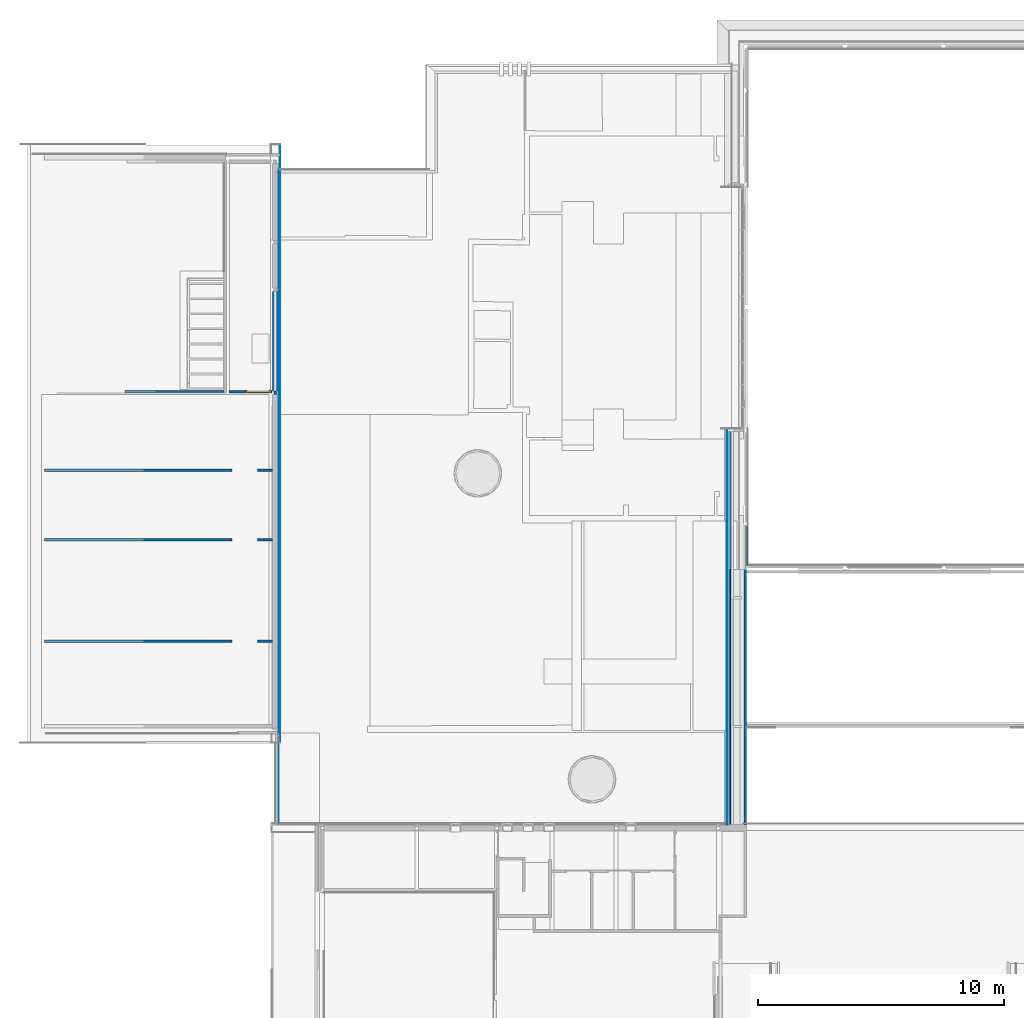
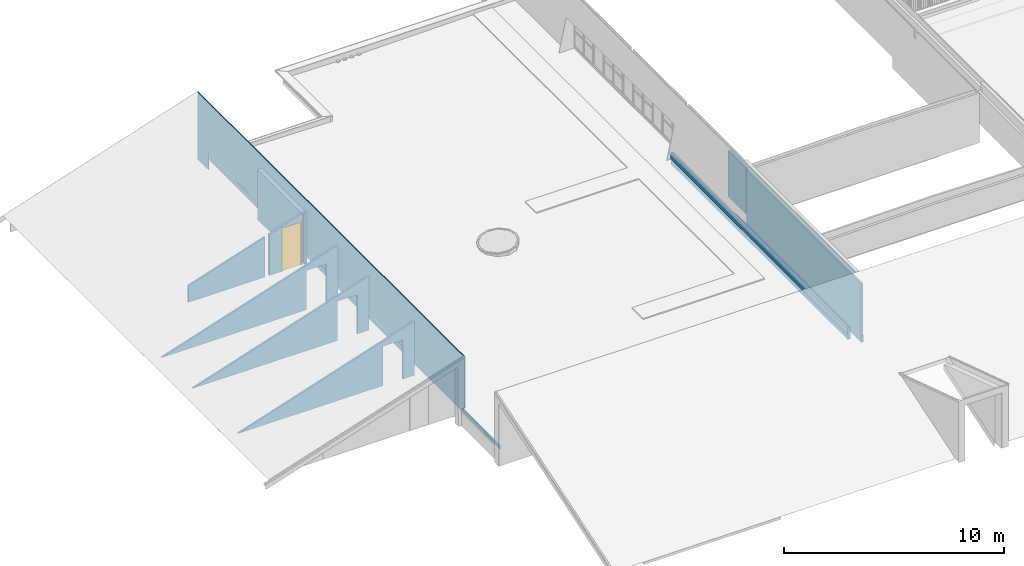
# One storey, part 23 of 66: 13 walls, 1 door, 11 openings.
"""IFC2X3 building model written with IfcOpenShell, lengths in millimetres."""

from ifc_helpers import new_model, entity, si_unit, converted_unit, derived_unit, direction, frame, frame_2d, origin, place, context, subcontext, project, spatial, polyline, rectangle, outline, extrude, clip, halfspace, bounded_halfspace, faceted_brep, source, transform, mapped, material, material_list, layer, layer_set, layer_usage, type_object, type_shapes, element, fill, save


model = new_model("IFC2X3")

# Units and contexts
model_context = context("Model", 3, precision=0.01, world=origin(), true_north=direction((6.12303176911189e-17, 1.0)))
body_context = subcontext(model_context, "Body", "Model", "MODEL_VIEW")
ifc_project = project(units=[si_unit("LENGTHUNIT", "METRE", prefix="MILLI"), si_unit("AREAUNIT", "SQUARE_METRE"), si_unit("VOLUMEUNIT", "CUBIC_METRE"), converted_unit("PLANEANGLEUNIT", "DEGREE", entity("IfcRatioMeasure", 0.0174532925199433), si_unit("PLANEANGLEUNIT", "RADIAN"), dimensions=[0, 0, 0, 0, 0, 0, 0]), si_unit("MASSUNIT", "GRAM", prefix="KILO"), derived_unit("MASSDENSITYUNIT", [(si_unit("MASSUNIT", "GRAM", prefix="KILO"), 1), (si_unit("LENGTHUNIT", "METRE"), -3)]), derived_unit("MOMENTOFINERTIAUNIT", [(si_unit("LENGTHUNIT", "METRE"), 4)]), si_unit("TIMEUNIT", "SECOND"), si_unit("FREQUENCYUNIT", "HERTZ"), si_unit("THERMODYNAMICTEMPERATUREUNIT", "DEGREE_CELSIUS"), derived_unit("THERMALTRANSMITTANCEUNIT", [(si_unit("MASSUNIT", "GRAM", prefix="KILO"), 1), (si_unit("THERMODYNAMICTEMPERATUREUNIT", "KELVIN"), -1), (si_unit("TIMEUNIT", "SECOND"), -3)]), derived_unit("VOLUMETRICFLOWRATEUNIT", [(si_unit("LENGTHUNIT", "METRE"), 3), (si_unit("TIMEUNIT", "SECOND"), -1)]), si_unit("ELECTRICCURRENTUNIT", "AMPERE"), si_unit("ELECTRICVOLTAGEUNIT", "VOLT"), si_unit("POWERUNIT", "WATT"), si_unit("FORCEUNIT", "NEWTON", prefix="KILO"), si_unit("ILLUMINANCEUNIT", "LUX"), si_unit("LUMINOUSFLUXUNIT", "LUMEN"), si_unit("LUMINOUSINTENSITYUNIT", "CANDELA"), derived_unit("USERDEFINED", [(si_unit("MASSUNIT", "GRAM", prefix="KILO"), -1), (si_unit("LENGTHUNIT", "METRE"), -2), (si_unit("TIMEUNIT", "SECOND"), 3), (si_unit("LUMINOUSFLUXUNIT", "LUMEN"), 1)]), derived_unit("LINEARVELOCITYUNIT", [(si_unit("LENGTHUNIT", "METRE"), 1), (si_unit("TIMEUNIT", "SECOND"), -1)]), si_unit("PRESSUREUNIT", "PASCAL"), derived_unit("USERDEFINED", [(si_unit("LENGTHUNIT", "METRE"), -2), (si_unit("MASSUNIT", "GRAM", prefix="KILO"), 1), (si_unit("TIMEUNIT", "SECOND"), -2)]), derived_unit("LINEARFORCEUNIT", [(si_unit("MASSUNIT", "GRAM", prefix="KILO"), 1), (si_unit("LENGTHUNIT", "METRE"), 1), (si_unit("TIMEUNIT", "SECOND"), -2), (si_unit("LENGTHUNIT", "METRE"), -1)]), derived_unit("PLANARFORCEUNIT", [(si_unit("MASSUNIT", "GRAM", prefix="KILO"), 1), (si_unit("LENGTHUNIT", "METRE"), 1), (si_unit("TIMEUNIT", "SECOND"), -2), (si_unit("LENGTHUNIT", "METRE"), -2)])], contexts=[model_context])

# Site, building, storey
site_placement = place(None, origin())
site = spatial("IfcSite", under=ifc_project, at=site_placement, Name="Default", CompositionType="ELEMENT")
building_placement = place(site_placement, origin())
building = spatial("IfcBuilding", under=site, at=building_placement, Name="-", CompositionType="ELEMENT")
storey_placement = place(building_placement, frame((0.0, 0.0, 3070.0)))
storey = spatial("IfcBuildingStorey", under=building, at=storey_placement, Name="01 eerste verdieping", CompositionType="ELEMENT", Elevation=3070.00000000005)

# Wall
ifc_material_1 = material(Name="NLRS_i4_hout_multiplex")
ifc_layer_1 = layer(ifc_material_1, 9.0)
ifc_material_2 = material(Name="NLRS_m1_isolatie")
ifc_layer_2 = layer(ifc_material_2, 89.0)
ifc_layer_3 = layer(ifc_material_1, 9.0)
ifc_layer_set_1 = layer_set([ifc_layer_1, ifc_layer_2, ifc_layer_3], Name="Basic Wall:NLRS_21_WA_HSB-wand_110mm")
ifc_layer_usage_1 = layer_usage(ifc_layer_set_1, "AXIS2", "POSITIVE", -53.5)
wall_type_1 = type_object("IfcWallType", Name="Basic Wall:NLRS_21_WA_HSB-wand_110mm", PredefinedType="STANDARD", material=ifc_layer_set_1)
wall_1_placement = place(storey_placement, frame((28761.500000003, 20916.3202504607, 345.0), z_axis=(0.0, 0.0, 1.0), x_axis=(0.0, 1.0, 0.0)))
element("IfcWallStandardCase", 1, at=wall_1_placement, inside=storey, type_object=wall_type_1, material=ifc_layer_usage_1, Name="Basic Wall:NLRS_21_WA_HSB-wand_110mm", ObjectType="Basic Wall:NLRS_21_WA_HSB-wand_110mm", context=body_context, shape_type="SweptSolid", body=[
    extrude(rectangle(XDim=1595.50000000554, YDim=107.000000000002, at=frame_2d((797.750000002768, 0.0), x_axis=(-1.0, 0.0))), origin(), (0.0, 0.0, 1.0), 2533.52593752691),
])

# Wall, opening, door
ifc_material_3 = material(Name="NLRS_f7_gipsplaat_gen")
ifc_layer_4 = layer(ifc_material_3, 12.5)
ifc_layer_5 = layer(ifc_material_2, 75.0)
ifc_layer_6 = layer(ifc_material_3, 12.5)
ifc_layer_set_2 = layer_set([ifc_layer_4, ifc_layer_5, ifc_layer_6], Name="Basic Wall:NLRS_21_WA_Metalstud 100mm")
ifc_layer_usage_2 = layer_usage(ifc_layer_set_2, "AXIS2", "NEGATIVE", 50.0)
wall_type_2 = type_object("IfcWallType", Name="Basic Wall:NLRS_21_WA_Metalstud 100mm", PredefinedType="STANDARD", material=ifc_layer_set_2)
wall_2_placement = place(storey_placement, frame((7780.03026943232, 27978.4865767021, 0.0)))
wall_2 = element("IfcWallStandardCase", 2, at=wall_2_placement, inside=storey, type_object=wall_type_2, material=ifc_layer_usage_2, Name="Basic Wall:NLRS_21_WA_Metalstud 100mm", ObjectType="Basic Wall:NLRS_21_WA_Metalstud 100mm", context=body_context, shape_type="Clipping", body=[
    clip(extrude(rectangle(XDim=1738.46973056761, YDim=100.000000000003, at=frame_2d((869.234865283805, 0.0), x_axis=(-1.0, 0.0))), origin(), (0.0, 0.0, 1.0), 2839.65323420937), halfspace(frame((0.0, -50.0, 2274.90005864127), z_axis=(-0.308962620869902, 0.0, 0.951074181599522), x_axis=(0.0, 1.0, 0.0)), False)),
])
opening_1_placement = place(wall_2_placement, frame((1692.78773486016, 50.0, -70.0)))
opening_1 = element("IfcOpeningElement", 3, at=opening_1_placement, cuts=wall_2, Name="AL_32.i_Binnenkozijn-enkeledeur_Rechtsdraaiend:Merk a:1", ObjectType="Opening", context=body_context, shape_type="SweptSolid", body=[
    extrude(rectangle(XDim=2462.00000000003, YDim=1034.0, at=frame_2d((1231.00000000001, 516.999999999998), x_axis=(1.0, 0.0))), frame((0.0, 0.0, 0.0), z_axis=(0.0, -1.0, 0.0), x_axis=(0.0, 0.0, 1.0)), (0.0, 0.0, 1.0), 100.0),
])
ifc_material_4 = material(Name="NLRS_i3_hout_Loofhout (hardhout) RAL 9002")
ifc_material_5 = material(Name="31_Glas")
ifc_material_6 = material(Name="<Unnamed>")
ifc_material_list = material_list([ifc_material_5, ifc_material_6, ifc_material_6, ifc_material_4])
door_style = type_object("IfcDoorStyle", Name="AL_32.i_Binnenkozijn-enkeledeur_Rechtsdraaiend:Merk a", ConstructionType="NOTDEFINED", OperationType="SINGLE_SWING_RIGHT", ParameterTakesPrecedence=False, Sizeable=False, material=ifc_material_list)
shared_shape = source(origin(), body_context, "Body", "Brep", [
    faceted_brep([(982.0, 40.0, 95.0), (52.0, 40.0, 95.0), (52.0, 40.0, 2410.0), (982.0, 40.0, 2410.0), (982.0, 0.0, 95.0), (52.0, 0.0, 95.0), (52.0, 0.0, 2410.0), (982.0, 0.0, 2410.0)], [[[0, 1, 2, 3]], [[1, 0, 4, 5]], [[2, 1, 5, 6]], [[0, 3, 7, 4]], [[4, 7, 6, 5]], [[3, 2, 6, 7]]]),
    faceted_brep([(984.0, -7.0, 70.0), (984.0, 42.0, 70.0), (967.0, 42.0, 70.0), (967.0, 107.0, 70.0), (1034.0, 107.0, 70.0), (1034.0, 77.0, 70.0), (1025.0, 77.0, 70.0), (1025.0, 23.0, 70.0), (1034.0, 23.0, 70.0), (1034.0, -7.0, 70.0), (984.0, -7.0, 2412.0), (984.0, 42.0, 2412.0), (50.0, 42.0, 2412.0), (50.0, 42.0, 70.0), (67.0, 42.0, 70.0), (67.0, 42.0, 2395.0), (967.0, 42.0, 2395.0), (967.0, 107.0, 2395.0), (67.0, 107.0, 2395.0), (67.0, 107.0, 70.0), (0.0, 107.0, 70.0), (0.0, 107.0, 2462.0), (1034.0, 107.0, 2462.0), (1034.0, 77.0, 2462.0), (0.0, 77.0, 2462.0), (0.0, 77.0, 70.0), (9.0, 77.0, 70.0), (9.0, 77.0, 2453.0), (1025.0, 77.0, 2453.0), (1025.0, 23.0, 2453.0), (9.0, 23.0, 2453.0), (9.0, 23.0, 70.0), (0.0, 23.0, 70.0), (0.0, 23.0, 2462.0), (1034.0, 23.0, 2462.0), (1034.0, -7.0, 2462.0), (0.0, -7.0, 2462.0), (0.0, -7.0, 70.0), (50.0, -7.0, 70.0), (50.0, -7.0, 2412.0)], [[[0, 1, 2, 3, 4, 5, 6, 7, 8, 9]], [[1, 0, 10, 11]], [[2, 1, 11, 12, 13, 14, 15, 16]], [[3, 2, 16, 17]], [[4, 3, 17, 18, 19, 20, 21, 22]], [[5, 4, 22, 23]], [[6, 5, 23, 24, 25, 26, 27, 28]], [[7, 6, 28, 29]], [[8, 7, 29, 30, 31, 32, 33, 34]], [[9, 8, 34, 35]], [[0, 9, 35, 36, 37, 38, 39, 10]], [[38, 37, 32, 31, 26, 25, 20, 19, 14, 13]], [[36, 33, 32, 37]], [[30, 27, 26, 31]], [[24, 21, 20, 25]], [[18, 15, 14, 19]], [[12, 39, 38, 13]], [[17, 16, 15, 18]], [[23, 22, 21, 24]], [[35, 34, 33, 36]], [[11, 10, 39, 12]], [[29, 28, 27, 30]]]),
])
type_shapes(door_style, [shared_shape])
door_placement = place(opening_1_placement, frame((-1034.0, -100.0, 0.0)))
door = element("IfcDoor", 4, at=door_placement, inside=storey, type_object=door_style, material=ifc_material_4, Name="AL_32.i_Binnenkozijn-enkeledeur_Rechtsdraaiend:Merk a", ObjectType="AL_32.i_Binnenkozijn-enkeledeur_Rechtsdraaiend:Merk a", OverallHeight=2462.00000000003, OverallWidth=1034.0, context=body_context, shape_type="MappedRepresentation", body=[
    mapped(shared_shape, transform((0.0, 0.0, 0.0), scale=1.0)),
])
fill(opening_1, door)

# Wall, openings
ifc_material_7 = material(Name="AL Houten gevelbekleding staand")
ifc_layer_7 = layer(ifc_material_7, 20.0)
ifc_layer_set_3 = layer_set([ifc_layer_7], Name="Basic Wall:NLRS_42_WA_Houten gevelbekleding staand 20mm")
ifc_layer_usage_3 = layer_usage(ifc_layer_set_3, "AXIS2", "NEGATIVE", 10.0)
wall_type_3 = type_object("IfcWallType", Name="Basic Wall:NLRS_42_WA_Houten gevelbekleding staand 20mm", PredefinedType="STANDARD", material=ifc_layer_set_3)
wall_3_placement = place(storey_placement, frame((9840.0, 38007.602151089, -370.0), z_axis=(0.0, 0.0, 1.0), x_axis=(0.0, -1.0, 0.0)))
wall_3 = element("IfcWallStandardCase", 5, at=wall_3_placement, inside=storey, type_object=wall_type_3, material=ifc_layer_usage_3, Name="Basic Wall:NLRS_42_WA_Houten gevelbekleding staand 20mm", ObjectType="Basic Wall:NLRS_42_WA_Houten gevelbekleding staand 20mm", context=body_context, shape_type="SweptSolid", body=[
    extrude(rectangle(XDim=24278.7851801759, YDim=19.9999999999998, at=frame_2d((12139.3925900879, 5.28466159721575e-13), x_axis=(-1.0, 0.0))), origin(), (0.0, 0.0, 1.0), 3760.01214954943),
])
opening_2_placement = place(wall_3_placement, origin())
element("IfcOpeningElement", 6, at=opening_2_placement, cuts=wall_3, Name="Basic Wall:NLRS_42_WA_Houten gevelbekleding staand 20mm", ObjectType="Opening", context=body_context, shape_type="SweptSolid", body=[
    extrude(rectangle(XDim=926.999999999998, YDim=23258.169605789, at=frame_2d((-1.81898940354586e-12, -2.8421709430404e-13), x_axis=(0.0, 1.0))), frame((12649.7003772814, 10.0, 463.499999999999), z_axis=(0.0, -1.0, 0.0), x_axis=(1.0, 0.0, 0.0)), (0.0, 0.0, 1.0), 20.0),
])
opening_3_placement = place(wall_3_placement, origin())
element("IfcOpeningElement", 7, at=opening_3_placement, cuts=wall_3, Name="Basic Wall:NLRS_42_WA_Houten gevelbekleding staand 20mm", ObjectType="Opening", context=body_context, shape_type="SweptSolid", body=[
    extrude(rectangle(XDim=237.829358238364, YDim=48.6315605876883, at=frame_2d((0.0, -2.16537898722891e-12), x_axis=(1.0, 0.0))), frame((24254.469399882, 10.0, 3641.09747043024), z_axis=(0.0, -1.0, 0.0), x_axis=(0.0, 0.0, 1.0)), (0.0, 0.0, 1.0), 20.0),
])
opening_4_placement = place(wall_3_placement, origin())
element("IfcOpeningElement", 8, at=opening_4_placement, cuts=wall_3, Name="Basic Wall:NLRS_42_WA_Houten gevelbekleding staand 20mm", ObjectType="Opening", context=body_context, shape_type="SweptSolid", body=[
    extrude(rectangle(XDim=237.829358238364, YDim=50.3184112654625, at=frame_2d((-4.33253433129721e-12, 0.0), x_axis=(0.0, 1.0))), frame((25.1592056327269, 10.0, 3641.09747043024), z_axis=(0.0, -1.0, 0.0), x_axis=(-1.0, 0.0, 0.0)), (0.0, 0.0, 1.0), 20.0),
])

# Wall, opening
ifc_layer_8 = layer(ifc_material_2, 89.0)
ifc_layer_9 = layer(ifc_material_1, 9.0)
ifc_layer_set_4 = layer_set([ifc_layer_8, ifc_layer_9], Name="Basic Wall:NLRS_21_WA_HSB-wand_98mm")
ifc_layer_usage_4 = layer_usage(ifc_layer_set_4, "AXIS2", "NEGATIVE", 49.0)
wall_type_4 = type_object("IfcWallType", Name="Basic Wall:NLRS_21_WA_HSB-wand_98mm", PredefinedType="STANDARD", material=ifc_layer_set_4)
wall_4_placement = place(storey_placement, frame((292.430995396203, 17847.8202504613, 0.0)))
wall_4 = element("IfcWallStandardCase", 9, at=wall_4_placement, inside=storey, type_object=wall_type_4, material=ifc_layer_usage_4, Name="Basic Wall:NLRS_21_WA_HSB-wand_98mm", ObjectType="Basic Wall:NLRS_21_WA_HSB-wand_98mm", context=body_context, shape_type="Clipping", body=[
    clip(extrude(rectangle(XDim=97.9999999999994, YDim=10378.7500000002, at=frame_2d((4049.19400460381, 1.20792265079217e-13), x_axis=(0.0, 1.0))), origin(), (0.0, 0.0, 1.0), 2999.69074897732), halfspace(frame((0.0, -49.0, 0.0), z_axis=(-0.308821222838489, 0.0, 0.951120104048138), x_axis=(0.0, 1.0, 0.0)), False)),
])
opening_5_placement = place(wall_4_placement, origin())
element("IfcOpeningElement", 10, at=opening_5_placement, cuts=wall_4, Name="Basic Wall:NLRS_21_WA_HSB-wand_98mm", ObjectType="Opening", context=body_context, shape_type="SweptSolid", body=[
    extrude(rectangle(XDim=2177.00000000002, YDim=1033.99999999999, at=frame_2d((2.27373675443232e-13, 0.0), x_axis=(1.0, 0.0))), frame((8120.69321537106, 49.0, 1088.50000000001), z_axis=(0.0, -1.0, 0.0), x_axis=(0.0, 0.0, 1.0)), (0.0, 0.0, 1.0), 98.0),
])

ifc_layer_usage_5 = layer_usage(ifc_layer_set_4, "AXIS2", "NEGATIVE", 49.0)
wall_5_placement = place(storey_placement, frame((291.621238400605, 21973.1576866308, 0.0)))
wall_5 = element("IfcWallStandardCase", 11, at=wall_5_placement, inside=storey, type_object=wall_type_4, material=ifc_layer_usage_5, Name="Basic Wall:NLRS_21_WA_HSB-wand_98mm", ObjectType="Basic Wall:NLRS_21_WA_HSB-wand_98mm", context=body_context, shape_type="Clipping", body=[
    clip(extrude(rectangle(XDim=98.0000000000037, YDim=10378.7500000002, at=frame_2d((4050.00376159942, 1.27897692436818e-13), x_axis=(0.0, 1.0))), origin(), (0.0, 0.0, 1.0), 2999.95367070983), halfspace(frame((0.0, -49.0, 0.0), z_axis=(-0.308821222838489, 0.0, 0.951120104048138), x_axis=(0.0, 1.0, 0.0)), False)),
])
opening_6_placement = place(wall_5_placement, origin())
element("IfcOpeningElement", 12, at=opening_6_placement, cuts=wall_5, Name="Basic Wall:NLRS_21_WA_HSB-wand_98mm", ObjectType="Opening", context=body_context, shape_type="SweptSolid", body=[
    extrude(rectangle(XDim=2177.00000000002, YDim=1033.99999999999, at=frame_2d((2.27373675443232e-13, 0.0), x_axis=(1.0, 0.0))), frame((8121.50297236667, 49.0, 1088.50000000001), z_axis=(0.0, -1.0, 0.0), x_axis=(0.0, 0.0, 1.0)), (0.0, 0.0, 1.0), 98.0),
])

ifc_layer_usage_6 = layer_usage(ifc_layer_set_4, "AXIS2", "NEGATIVE", 49.0)
wall_6_placement = place(storey_placement, frame((291.812210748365, 24787.1913204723, 0.0)))
wall_6 = element("IfcWallStandardCase", 13, at=wall_6_placement, inside=storey, type_object=wall_type_4, material=ifc_layer_usage_6, Name="Basic Wall:NLRS_21_WA_HSB-wand_98mm", ObjectType="Basic Wall:NLRS_21_WA_HSB-wand_98mm", context=body_context, shape_type="Clipping", body=[
    clip(extrude(rectangle(XDim=98.0000000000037, YDim=10378.7500000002, at=frame_2d((4049.81278925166, 1.27897692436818e-13), x_axis=(0.0, 1.0))), origin(), (0.0, 0.0, 1.0), 2999.89166348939), halfspace(frame((0.0, -49.0, 0.0), z_axis=(-0.308821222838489, 0.0, 0.951120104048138), x_axis=(0.0, 1.0, 0.0)), False)),
])
opening_7_placement = place(wall_6_placement, origin())
element("IfcOpeningElement", 14, at=opening_7_placement, cuts=wall_6, Name="Basic Wall:NLRS_21_WA_HSB-wand_98mm", ObjectType="Opening", context=body_context, shape_type="SweptSolid", body=[
    extrude(rectangle(XDim=2177.00000000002, YDim=1033.99999999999, at=frame_2d((2.27373675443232e-13, 0.0), x_axis=(1.0, 0.0))), frame((8121.31200001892, 49.0, 1088.50000000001), z_axis=(0.0, -1.0, 0.0), x_axis=(0.0, 0.0, 1.0)), (0.0, 0.0, 1.0), 98.0),
])

# Wall, openings
ifc_material_8 = material(Name="AL_Multiplex")
ifc_layer_10 = layer(ifc_material_8, 10.0)
ifc_layer_11 = layer(ifc_material_2, 89.0)
ifc_layer_12 = layer(ifc_material_8, 10.0)
ifc_layer_set_5 = layer_set([ifc_layer_10, ifc_layer_11, ifc_layer_12], Name="Basic Wall:NLRS_21_WA_HSB-wand boven podium")
ifc_layer_usage_7 = layer_usage(ifc_layer_set_5, "AXIS2", "NEGATIVE", 54.5)
wall_type_5 = type_object("IfcWallType", Name="Basic Wall:NLRS_21_WA_HSB-wand boven podium", PredefinedType="STANDARD", material=ifc_layer_set_5)
wall_7_placement = place(storey_placement, frame((28726.1948343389, 10356.728362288, -370.0), z_axis=(0.0, 0.0, 1.0), x_axis=(0.0, 1.0, 0.0)))
wall_7 = element("IfcWallStandardCase", 15, at=wall_7_placement, inside=storey, type_object=wall_type_5, material=ifc_layer_usage_7, Name="Basic Wall:NLRS_21_WA_HSB-wand boven podium", ObjectType="Basic Wall:NLRS_21_WA_HSB-wand boven podium", context=body_context, shape_type="SweptSolid", body=[
    extrude(rectangle(XDim=10407.5918881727, YDim=109.000000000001, at=frame_2d((5203.79594408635, 3.69482222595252e-13), x_axis=(-1.0, 0.0))), origin(), (0.0, 0.0, 1.0), 3230.00000000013),
])
opening_8_placement = place(wall_7_placement, origin())
element("IfcOpeningElement", 16, at=opening_8_placement, cuts=wall_7, Name="Basic Wall:NLRS_21_WA_HSB-wand boven podium", ObjectType="Opening", context=body_context, shape_type="SweptSolid", body=[
    extrude(rectangle(XDim=2860.0, YDim=28.7635013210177, at=frame_2d((0.0, -2.27373675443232e-13), x_axis=(0.0, 1.0))), frame((14.381750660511, 54.5000000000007, 1800.0), z_axis=(0.0, -1.0, 0.0), x_axis=(-1.0, 0.0, 0.0)), (0.0, 0.0, 1.0), 109.0),
])
opening_9_placement = place(wall_7_placement, origin())
element("IfcOpeningElement", 17, at=opening_9_placement, cuts=wall_7, Name="Basic Wall:NLRS_21_WA_HSB-wand boven podium", ObjectType="Opening", context=body_context, shape_type="SweptSolid", body=[
    extrude(rectangle(XDim=245.0, YDim=108.000000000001, at=frame_2d((0.0, 2.77111666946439e-13), x_axis=(0.0, 1.0))), frame((10353.5918881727, 54.5000000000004, 122.5), z_axis=(0.0, -1.0, 0.0), x_axis=(1.0, 0.0, 0.0)), (0.0, 0.0, 1.0), 109.0),
])

# Walls
ifc_layer_13 = layer(ifc_material_1, 10.0)
ifc_layer_14 = layer(ifc_material_2, 235.0)
ifc_layer_15 = layer(ifc_material_1, 10.0)
ifc_layer_set_6 = layer_set([ifc_layer_13, ifc_layer_14, ifc_layer_15], Name="Basic Wall:NLRS_21_WA_HSB-wand_268mm (zonder gips)")
ifc_layer_usage_8 = layer_usage(ifc_layer_set_6, "AXIS2", "NEGATIVE", 127.5)
wall_type_6 = type_object("IfcWallType", Name="Basic Wall:NLRS_21_WA_HSB-wand_268mm (zonder gips)", PredefinedType="STANDARD", material=ifc_layer_set_6)
wall_8_placement = place(storey_placement, frame((9658.49999999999, 32048.396155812, 0.0), z_axis=(0.0, 0.0, 1.0), x_axis=(0.0, -1.0, 0.0)))
element("IfcWallStandardCase", 18, at=wall_8_placement, inside=storey, type_object=wall_type_6, material=ifc_layer_usage_8, Name="Basic Wall:NLRS_21_WA_HSB-wand_268mm (zonder gips)", ObjectType="Basic Wall:NLRS_21_WA_HSB-wand_268mm (zonder gips)", context=body_context, shape_type="SweptSolid", body=[
    extrude(rectangle(XDim=4050.00054931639, YDim=255.000000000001, at=frame_2d((2025.0002746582, 1.27897692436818e-13), x_axis=(-1.0, 0.0))), origin(), (0.0, 0.0, 1.0), 2759.99999999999),
])
ifc_material_9 = material(Name="NLRS_i4_hout_multiplex zwart")
ifc_layer_16 = layer(ifc_material_9, 15.0)
ifc_layer_17 = layer(ifc_material_2, 75.0)
ifc_layer_set_7 = layer_set([ifc_layer_16, ifc_layer_17], Name="Basic Wall:NLRS_21_WA_Metalstud 90mm (achter sierbekleding)")
ifc_layer_usage_9 = layer_usage(ifc_layer_set_7, "AXIS2", "NEGATIVE", 45.0)
wall_type_7 = type_object("IfcWallType", Name="Basic Wall:NLRS_21_WA_Metalstud 90mm (achter sierbekleding)", PredefinedType="STANDARD", material=ifc_layer_set_7)
wall_9_placement = place(storey_placement, frame((3547.24256076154, 27985.9865767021, -18.0)))
element("IfcWallStandardCase", 19, at=wall_9_placement, inside=storey, type_object=wall_type_7, material=ifc_layer_usage_9, Name="Basic Wall:NLRS_21_WA_Metalstud 90mm (achter sierbekleding)", ObjectType="Basic Wall:NLRS_21_WA_Metalstud 90mm (achter sierbekleding)", context=body_context, shape_type="Clipping", body=[
    clip(extrude(rectangle(XDim=4020.28770867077, YDim=89.9999999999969, at=frame_2d((2010.14385433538, 0.0), x_axis=(-1.0, 0.0))), origin(), (0.0, 0.0, 1.0), 2223.86805489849), halfspace(frame((0.0, -45.0, 917.851498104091), z_axis=(-0.308962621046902, 0.0, 0.951074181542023), x_axis=(0.0, 1.0, 0.0)), False)),
])

# Wall, openings
ifc_material_10 = material(Name="n2_bitumen_dak bedekking")
ifc_layer_18 = layer(ifc_material_10, 6.0)
ifc_layer_set_8 = layer_set([ifc_layer_18], Name="Basic Wall:47.11_2 laagse APP dakbedekking")
ifc_layer_usage_10 = layer_usage(ifc_layer_set_8, "AXIS2", "POSITIVE", -3.0)
wall_type_8 = type_object("IfcWallType", Name="Basic Wall:47.11_2 laagse APP dakbedekking", PredefinedType="STANDARD", material=ifc_layer_set_8)
wall_10_placement = place(storey_placement, frame((9789.0, 10408.1240954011, 274.525970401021), z_axis=(0.0, 0.0, 1.0), x_axis=(0.0, 1.0, 0.0)))
wall_10 = element("IfcWallStandardCase", 20, at=wall_10_placement, inside=storey, type_object=wall_type_8, material=ifc_layer_usage_10, Name="Basic Wall:47.11_2 laagse APP dakbedekking", ObjectType="Basic Wall:47.11_2 laagse APP dakbedekking", context=body_context, shape_type="SweptSolid", body=[
    extrude(rectangle(XDim=26587.8624813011, YDim=5.99999999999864, at=frame_2d((13293.9312406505, -1.37223565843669e-13), x_axis=(-1.0, 0.0))), origin(), (0.0, 0.0, 1.0), 312.474029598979),
])
opening_10_placement = place(wall_10_placement, origin())
element("IfcOpeningElement", 21, at=opening_10_placement, cuts=wall_10, Name="Basic Wall:47.11_2 laagse APP dakbedekking", ObjectType="Opening", context=body_context, shape_type="SweptSolid", body=[
    extrude(outline(polyline([(-71.4999999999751, -100.379871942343), (71.4999999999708, -100.379871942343), (71.4999999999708, 105.594157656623), (-71.4999999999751, 95.1655862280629), (-71.4999999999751, -100.379871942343)])), frame((26516.3624813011, 3.0, 100.379871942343), z_axis=(0.0, -1.0, 0.0), x_axis=(1.0, 0.0, 0.0)), (0.0, 0.0, 1.0), 6.00000000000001),
])
opening_11_placement = place(wall_10_placement, origin())
element("IfcOpeningElement", 22, at=opening_11_placement, cuts=wall_10, Name="Basic Wall:47.11_2 laagse APP dakbedekking", ObjectType="Opening", context=body_context, shape_type="SweptSolid", body=[
    extrude(rectangle(XDim=97.4740295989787, YDim=3319.19287551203, at=frame_2d((0.0, 2.70006239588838e-13), x_axis=(0.0, 1.0))), frame((1659.59643775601, 3.0, 263.73701479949), z_axis=(0.0, -1.0, 0.0), x_axis=(-1.0, 0.0, 0.0)), (0.0, 0.0, 1.0), 6.00000000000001),
])

# Walls
ifc_layer_usage_11 = layer_usage(ifc_layer_set_8, "AXIS2", "POSITIVE", -3.0)
wall_11_placement = place(storey_placement, frame((27983.448133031, 26473.9768827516, 259.66003106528), z_axis=(0.0, 0.0, 1.0), x_axis=(0.0, -1.0, 0.0)))
element("IfcWallStandardCase", 23, at=wall_11_placement, inside=storey, type_object=wall_type_8, material=ifc_layer_usage_11, Name="Basic Wall:47.11_2 laagse APP dakbedekking", ObjectType="Basic Wall:47.11_2 laagse APP dakbedekking", context=body_context, shape_type="SweptSolid", body=[
    extrude(rectangle(XDim=16065.8527873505, YDim=5.99999999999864, at=frame_2d((8032.92639367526, 0.0), x_axis=(-1.0, 0.0))), origin(), (0.0, 0.0, 1.0), 371.6683638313),
])
ifc_material_11 = material(Name="NLRS_n7_isolatie PIR_gen")
ifc_layer_19 = layer(ifc_material_11, 100.0)
ifc_layer_set_9 = layer_set([ifc_layer_19], Name="Basic Wall:NLRS_22_WA_LB_isolatie PIR 100mm")
ifc_layer_usage_12 = layer_usage(ifc_layer_set_9, "AXIS2", "NEGATIVE", 50.0)
wall_type_9 = type_object("IfcWallType", Name="Basic Wall:NLRS_22_WA_LB_isolatie PIR 100mm", PredefinedType="STANDARD", material=ifc_layer_set_9)
wall_12_placement = place(storey_placement, frame((9655.81813045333, 27998.3956064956, 0.0), z_axis=(0.0, 0.0, 1.0), x_axis=(0.0, -1.0, 0.0)))
element("IfcWallStandardCase", 24, at=wall_12_placement, inside=storey, type_object=wall_type_9, material=ifc_layer_usage_12, Name="Basic Wall:NLRS_22_WA_LB_isolatie PIR 100mm", ObjectType="Basic Wall:NLRS_22_WA_LB_isolatie PIR 100mm", context=body_context, shape_type="SweptSolid", body=[
    extrude(rectangle(XDim=140.000000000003, YDim=99.9999999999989, at=frame_2d((70.0000000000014, -2.30926389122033e-13), x_axis=(-1.0, 0.0))), origin(), (0.0, 0.0, 1.0), 2860.0),
])
ifc_layer_20 = layer(ifc_material_11, 140.0)
ifc_material_12 = material(Name="NLRS_e_natuursteen")
ifc_layer_21 = layer(ifc_material_12, 10.0)
ifc_layer_set_10 = layer_set([ifc_layer_20, ifc_layer_21], Name="Basic Wall:NLRS_41_geïsoleerde kantplank")
ifc_layer_usage_13 = layer_usage(ifc_layer_set_10, "AXIS2", "NEGATIVE", 75.0)
wall_type_10 = type_object("IfcWallType", Name="Basic Wall:NLRS_41_geïsoleerde kantplank", PredefinedType="STANDARD", material=ifc_layer_set_10)
wall_13_placement = place(storey_placement, frame((28061.4481330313, 26473.9768827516, 0.0), z_axis=(0.0, 0.0, 1.0), x_axis=(0.0, -1.0, 0.0)))
element("IfcWallStandardCase", 25, at=wall_13_placement, inside=storey, type_object=wall_type_10, material=ifc_layer_usage_13, Name="Basic Wall:NLRS_41_geïsoleerde kantplank", ObjectType="Basic Wall:NLRS_41_geïsoleerde kantplank", context=body_context, shape_type="Clipping", body=[
    clip(clip(clip(extrude(rectangle(XDim=16071.8527873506, YDim=150.000000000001, at=frame_2d((8035.92639367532, 9.9475983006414e-14), x_axis=(-1.0, 0.0))), origin(), (0.0, 0.0, 1.0), 637.889430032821), bounded_halfspace(frame((5712.65663229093, 75.0, 637.88943003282), z_axis=(-1.0, 0.0, 0.0), x_axis=(0.0, 1.0, 0.0)), False, frame((5712.65663229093, 75.0, 637.88943003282), z_axis=(-1.0, 0.0, 0.0), x_axis=(0.0, 1.0, 0.0)), polyline([(0.0, 0.0), (0.0, 36.4309011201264), (-41.5835557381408, 27.8950229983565), (-35.8575298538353, 0.0), (0.0, 0.0)]))), bounded_halfspace(frame((16071.8527873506, -75.0, 632.249106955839), z_axis=(0.0, 0.201077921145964, 0.979575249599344), x_axis=(1.0, 0.0, 0.0)), False, frame((16071.8527873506, -75.0, 632.249106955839), z_axis=(0.0, 0.201077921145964, 0.979575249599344), x_axis=(1.0, 0.0, 0.0)), polyline([(0.0, 0.0), (0.0, 110.676994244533), (-10359.1961550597, 110.676994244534), (-10359.1961550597, 153.127592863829), (-16071.8527873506, 153.127592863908), (-16071.8527873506, 0.0), (0.0, 0.0)]))), bounded_halfspace(frame((5712.65663229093, 33.4164442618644, 609.994407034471), z_axis=(0.0, 0.979575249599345, -0.201077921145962), x_axis=(1.0, 0.0, 0.0)), True, frame((5712.65663229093, 33.4164442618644, 609.994407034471), z_axis=(0.0, 0.979575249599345, -0.201077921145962), x_axis=(1.0, 0.0, 0.0)), polyline([(0.0, 0.0), (0.0, -28.4766514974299), (10359.1961550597, -28.4766514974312), (10359.1961550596, 0.0), (0.0, 0.0)]))),
])

save(model, "model.ifc")
